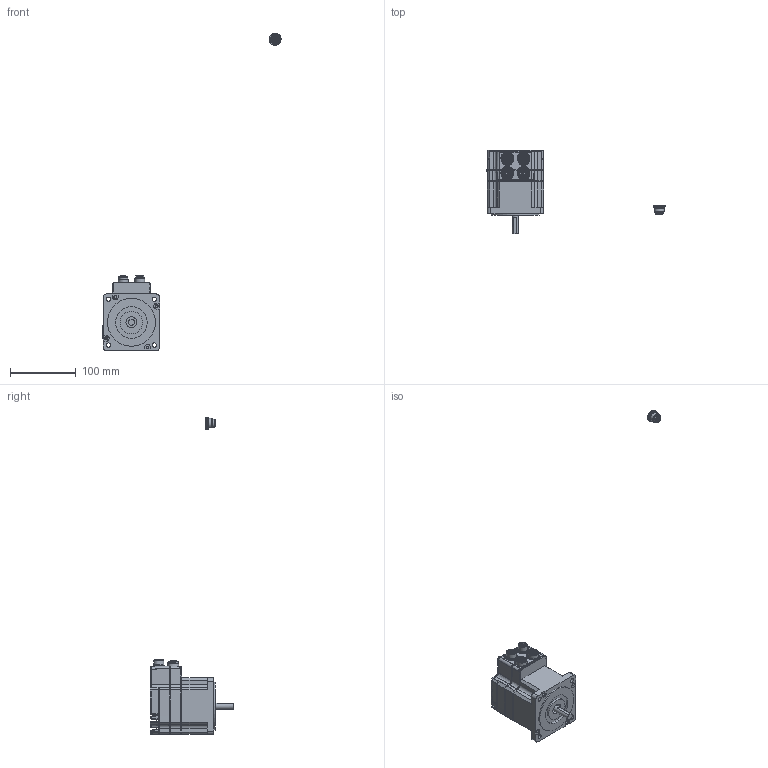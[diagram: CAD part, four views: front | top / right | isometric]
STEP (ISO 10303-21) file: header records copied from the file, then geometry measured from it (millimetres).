
FILE_DESCRIPTION( ( 'Unknown' ), '1' );
FILE_NAME( 'K:/JVL/MISxx/MIS34x/CAD internet tegninger/STEP/STEP/MIS340C12xxxx85.stp', 'Unknown', ( 'Unknown' ), ( 'Unknown' ), 'PSStep 11.0', 'Unknown', ' ' );
FILE_SCHEMA( ( 'AUTOMOTIVE_DESIGN { 1 0 10303 214 1 1 1 1 }' ) );
Length unit declared in the file: millimetre
Products named in the file (8): MIS34 house; Assem1; MM3831; MM3830; PWR 5 pin male; IO RS485 17 pin female; Ethernet 4 pin female; MIS340 single shaft
Bounding box: 270.69 x 127.25 x 482.41 mm (x, y, z)
Volume: 1647568.4 mm3; surface area: 285203.3 mm2
Topology: 19 solids, 22 shells, 3080 faces, 7376 edges, 4530 vertices
Faces by surface type: plane 1366, cylinder 1210, sphere 327, cone 90, bspline 48, torus 21, extrusion 18
Full cylindrical faces by diameter (mm): 0.7 x51, 1 x47, 3 x15, 4.3 x12, 4.4 x8, 6.6 x8, 8.2 x3, 9.53 x2, 10.6 x3, 11.5 x8, 12 x3, 13.3 x5, 13.6 x3, 16 x3, 16.5 x2, 18 x11, 19 x12, 34 x2, 48 x2, 73 x2
Entity records: 38063 total; most frequent: CARTESIAN_POINT 5897, DIRECTION 5244, ORIENTED_EDGE 4694, EDGE_CURVE 2347, AXIS2_PLACEMENT_3D 1929, VERTEX_POINT 1480, VECTOR 1386, LINE 1380
